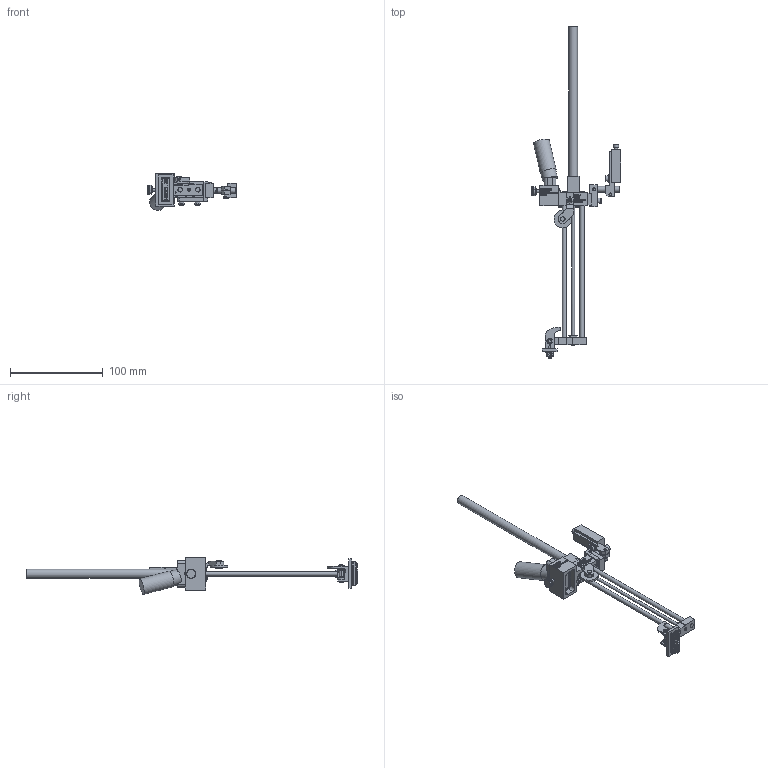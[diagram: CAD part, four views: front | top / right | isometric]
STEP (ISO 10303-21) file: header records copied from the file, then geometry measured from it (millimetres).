
FILE_DESCRIPTION((''),'2;1');
FILE_NAME('C:\Documents and Settings\Ron\My Documents\Inventor\Sprinter Drawing\Machines in Inventor\Model 28\Type\Ext Str\E4\Brkt\Ext\Model 28 E4 Type Ext w brkt.stp','2009-01-26T07:53:57',('Ron'),(''),'Autodesk Inventor 2008','Autodesk Inventor 2008','');
FILE_SCHEMA(('AUTOMOTIVE_DESIGN { 1 0 10303 214 1 1 1 1 }'));
Length unit declared in the file: inch
Products named in the file (1): Model 28 E4 Type Ext w brkt
Bounding box: 95.97 x 357.47 x 39.63 mm (x, y, z)
Volume: 79073.2 mm3; surface area: 44301.5 mm2
Topology: 33 solids, 33 shells, 4159 faces, 11308 edges, 7503 vertices
Faces by surface type: plane 2437, bspline 1344, cylinder 316, cone 48, torus 14
Full cylindrical faces by diameter (mm): 2.337 x1, 2.845 x3, 2.946 x2, 3.048 x1, 3.175 x3, 3.454 x1, 3.505 x7, 3.658 x1, 3.876 x1, 3.962 x9, 3.988 x1, 4.064 x2, 4.648 x2, 4.699 x2, 4.75 x1, 4.763 x2, 4.775 x2, 4.788 x1, 5.41 x2, 5.74 x6, 6.096 x1, 6.325 x2, 6.35 x2, 6.655 x1, 7.239 x1, 7.925 x4, 7.938 x1, 8.128 x1, 9.525 x1, 10.922 x1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
Entity records: 143519 total; most frequent: CARTESIAN_POINT 46012, ORIENTED_EDGE 22122, DIRECTION 14923, EDGE_CURVE 11061, VECTOR 7501, LINE 7501, VERTEX_POINT 7426, EDGE_LOOP 4683
